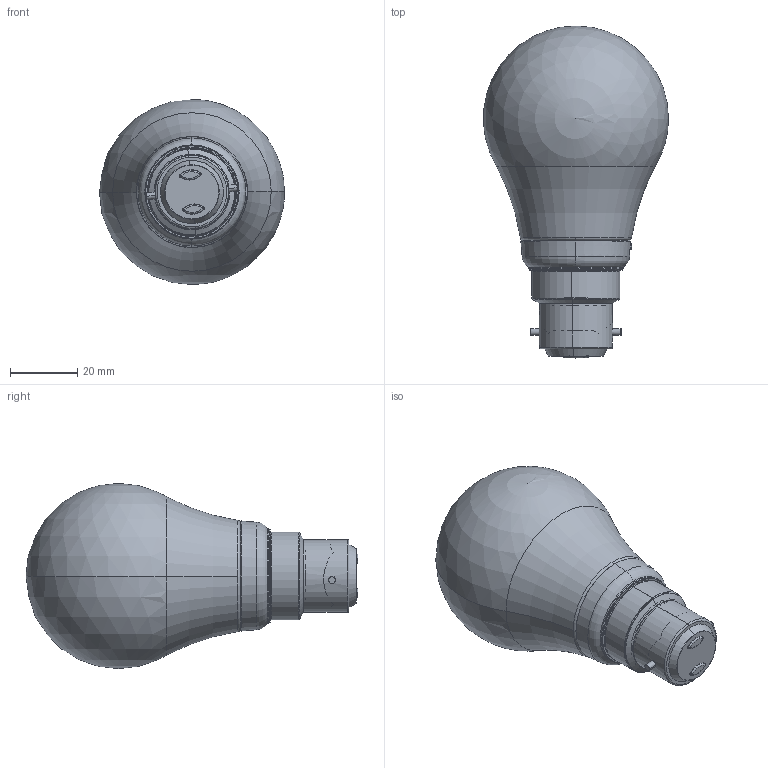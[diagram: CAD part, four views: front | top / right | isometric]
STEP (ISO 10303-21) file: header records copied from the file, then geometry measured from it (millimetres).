
FILE_DESCRIPTION(('FreeCAD Model'),'2;1');
FILE_NAME('Open CASCADE Shape Model','2024-04-30T11:50:00',( 'Lukas Balthasar Pank'),('Astera LED Technology GmbH'), 'Open CASCADE STEP processor 7.6','FreeCAD','Unknown');
FILE_SCHEMA(('AUTOMOTIVE_DESIGN { 1 0 10303 214 1 1 1 1 }'));
Length unit declared in the file: millimetre
Products named in the file (11): FP7-B22-3D; Diffuser-For B22; COVER; B22-socket; LampCup; MEC29154-spring; MEC29145-release button; MEC29149-Lamp cup-S
Assembly tree (12 placements, depth 4):
  FP7-B22-3D
    Diffuser-For B22
    COVER
    B22-socket
    LampCup
      MEC29154-spring
        MEC29154-spring
        MEC29154-spring
      MEC29154-spring
        MEC29154-spring
        MEC29154-spring
      MEC29145-release button
      MEC29149-Lamp cup-S
Bounding box: 54.96 x 98.6 x 55 mm (x, y, z)
Volume: 18441.5 mm3; surface area: 37060.6 mm2
Topology: 5 solids, 10 shells, 3203 faces, 8729 edges, 5777 vertices
Faces by surface type: bspline 1508, plane 914, cylinder 658, cone 56, torus 47, sphere 16, revolution 4
Entity records: 120661 total; most frequent: CARTESIAN_POINT 52631, ORIENTED_EDGE 17414, EDGE_CURVE 8709, DIRECTION 8409, VERTEX_POINT 5769, B_SPLINE_CURVE_WITH_KNOTS 5276, FACE_BOUND 3443, EDGE_LOOP 3443
